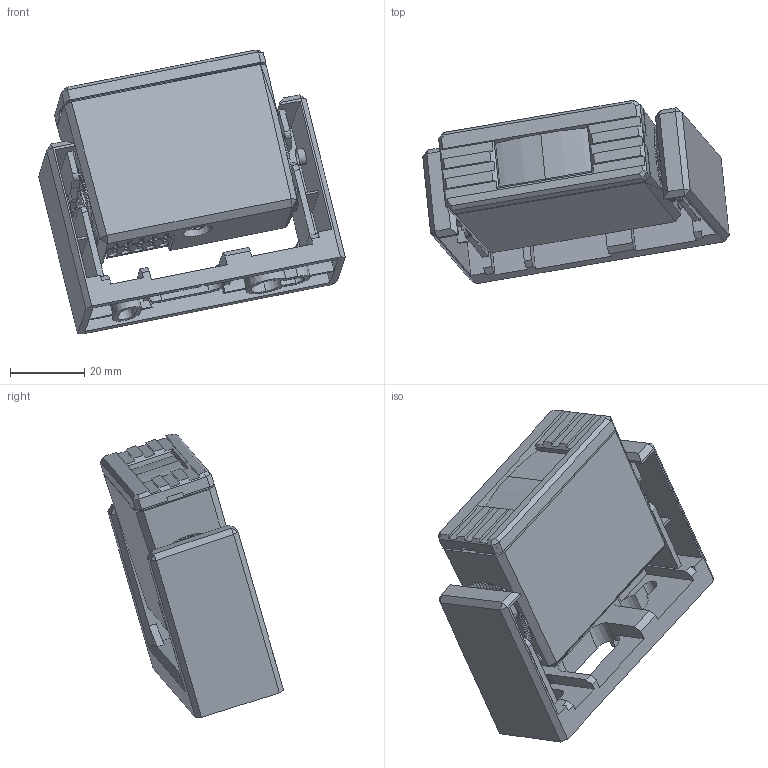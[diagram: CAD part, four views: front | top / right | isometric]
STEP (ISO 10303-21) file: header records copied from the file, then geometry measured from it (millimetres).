
FILE_DESCRIPTION (( 'STEP AP214' ), '1' );
FILE_NAME ('212657_A.STEP', '2017-07-25T08:53:32', ( '' ), ( '' ), 'SwSTEP 2.0', 'SolidWorks 2017', '' );
FILE_SCHEMA (( 'AUTOMOTIVE_DESIGN' ));
Length unit declared in the file: millimetre
Products named in the file (1): 212657_A
Bounding box: 82.82 x 49.53 x 76.72 mm (x, y, z)
Surface area: 25998.8 mm2 (no closed solid volume)
Topology: 0 solids, 28 shells, 554 faces, 2405 edges, 1837 vertices
Faces by surface type: plane 430, cylinder 81, cone 25, bspline 14, torus 4
Entity records: 33883 total; most frequent: CARTESIAN_POINT 10350, ORIENTED_EDGE 3614, DIRECTION 2774, EDGE_CURVE 2405, VERTEX_POINT 1837, LINE 1272, VECTOR 1272, B_SPLINE_CURVE_WITH_KNOTS 922
